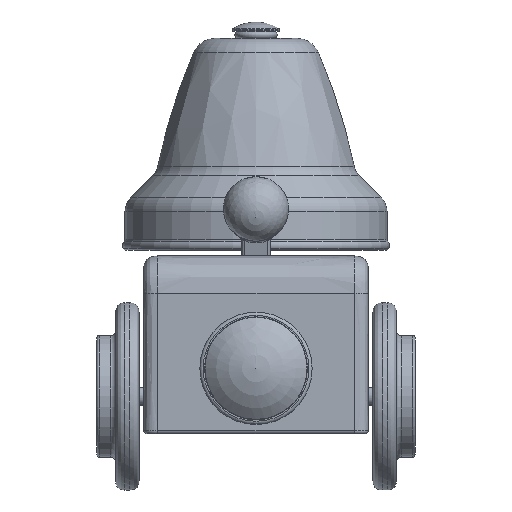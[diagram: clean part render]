
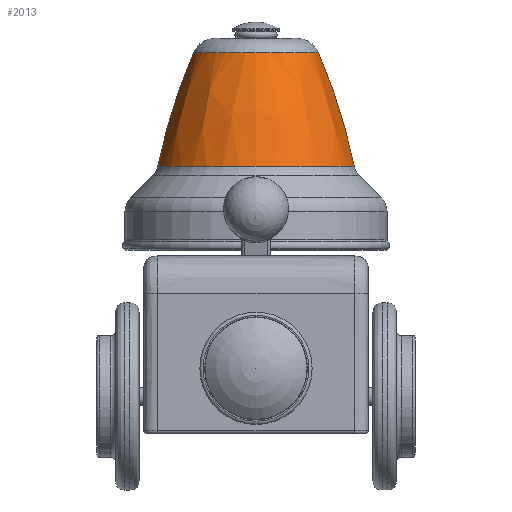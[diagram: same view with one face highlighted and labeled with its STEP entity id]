
A CAD part, left-side view. The second image highlights one B-rep face of the part: STEP entity #2013.
In plain terms, the highlighted free-form (B-spline) face has degree [3, 3] with [4, 7] control points.
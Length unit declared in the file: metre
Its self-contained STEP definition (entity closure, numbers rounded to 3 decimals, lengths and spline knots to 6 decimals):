
#2013 = ADVANCED_FACE( '', ( #3920, #3921 ), #3922, .T. );
#3920 = FACE_OUTER_BOUND( '', #7621, .T. );
#3921 = FACE_OUTER_BOUND( '', #7622, .T. );
#3922 = ( BOUNDED_SURFACE(  )B_SPLINE_SURFACE( 3, 3, ( ( #7625, #7626, #7627, #7628, #7629, #7630, #7631 ), ( #7632, #7633, #7634, #7635, #7636, #7637, #7638 ), ( #7639, #7640, #7641, #7642, #7643, #7644, #7645 ), ( #7646, #7647, #7648, #7649, #7650, #7651, #7652 ) ), .UNSPECIFIED., .F., .T., .F. )B_SPLINE_SURFACE_WITH_KNOTS( ( 4, 4 ), ( 4, 3, 4 ), ( 0., 6.283185 ), ( -0.403073, -0.305433, -0.207792 ), .UNSPECIFIED. )GEOMETRIC_REPRESENTATION_ITEM(  )RATIONAL_B_SPLINE_SURFACE( ( ( 1., 0.333, 0.333, 1., 0.333, 0.333, 1. ), ( 0.997, 0.332, 0.332, 0.997, 0.332, 0.332, 0.997 ), ( 0.997, 0.332, 0.332, 0.997, 0.332, 0.332, 0.997 ), ( 1., 0.333, 0.333, 1., 0.333, 0.333, 1. ) ) )REPRESENTATION_ITEM( '' )SURFACE(  ) );
#7621 = EDGE_LOOP( '', ( #12452 ) );
#7622 = EDGE_LOOP( '', ( #12453 ) );
#7625 = CARTESIAN_POINT( '', ( -0.010507, 0., 0.034563 ) );
#7626 = CARTESIAN_POINT( '', ( -0.010507, 0.021015, 0.034563 ) );
#7627 = CARTESIAN_POINT( '', ( 0.010507, 0.021015, 0.034563 ) );
#7628 = CARTESIAN_POINT( '', ( 0.010507, 0., 0.034563 ) );
#7629 = CARTESIAN_POINT( '', ( 0.010507, -0.021015, 0.034563 ) );
#7630 = CARTESIAN_POINT( '', ( -0.010507, -0.021015, 0.034563 ) );
#7631 = CARTESIAN_POINT( '', ( -0.010507, 0., 0.034563 ) );
#7632 = CARTESIAN_POINT( '', ( -0.009627, 0., 0.038737 ) );
#7633 = CARTESIAN_POINT( '', ( -0.009627, 0.019254, 0.038737 ) );
#7634 = CARTESIAN_POINT( '', ( 0.009627, 0.019254, 0.038737 ) );
#7635 = CARTESIAN_POINT( '', ( 0.009627, 0., 0.038737 ) );
#7636 = CARTESIAN_POINT( '', ( 0.009627, -0.019254, 0.038737 ) );
#7637 = CARTESIAN_POINT( '', ( -0.009627, -0.019254, 0.038737 ) );
#7638 = CARTESIAN_POINT( '', ( -0.009627, 0., 0.038737 ) );
#7639 = CARTESIAN_POINT( '', ( -0.008344, 0., 0.042806 ) );
#7640 = CARTESIAN_POINT( '', ( -0.008344, 0.016689, 0.042806 ) );
#7641 = CARTESIAN_POINT( '', ( 0.008344, 0.016689, 0.042806 ) );
#7642 = CARTESIAN_POINT( '', ( 0.008344, 0., 0.042806 ) );
#7643 = CARTESIAN_POINT( '', ( 0.008344, -0.016689, 0.042806 ) );
#7644 = CARTESIAN_POINT( '', ( -0.008344, -0.016689, 0.042806 ) );
#7645 = CARTESIAN_POINT( '', ( -0.008344, 0., 0.042806 ) );
#7646 = CARTESIAN_POINT( '', ( -0.006671, 0., 0.046731 ) );
#7647 = CARTESIAN_POINT( '', ( -0.006671, 0.013342, 0.046731 ) );
#7648 = CARTESIAN_POINT( '', ( 0.006671, 0.013342, 0.046731 ) );
#7649 = CARTESIAN_POINT( '', ( 0.006671, 0., 0.046731 ) );
#7650 = CARTESIAN_POINT( '', ( 0.006671, -0.013342, 0.046731 ) );
#7651 = CARTESIAN_POINT( '', ( -0.006671, -0.013342, 0.046731 ) );
#7652 = CARTESIAN_POINT( '', ( -0.006671, 0., 0.046731 ) );
#12452 = ORIENTED_EDGE( '', *, *, #14880, .T. );
#12453 = ORIENTED_EDGE( '', *, *, #14704, .F. );
#14704 = EDGE_CURVE( '', #17332, #17332, #17333, .T. );
#14880 = EDGE_CURVE( '', #17532, #17532, #17533, .T. );
#17332 = VERTEX_POINT( '', #22312 );
#17333 = CIRCLE( '', #22313, 0.010507 );
#17532 = VERTEX_POINT( '', #22580 );
#17533 = CIRCLE( '', #22581, 0.006671 );
#22312 = CARTESIAN_POINT( '', ( -0.010507, 0., 0.034563 ) );
#22313 = AXIS2_PLACEMENT_3D( '', #23809, #23810, #23811 );
#22580 = CARTESIAN_POINT( '', ( -0.006671, 0., 0.046731 ) );
#22581 = AXIS2_PLACEMENT_3D( '', #23915, #23916, #23917 );
#23809 = CARTESIAN_POINT( '', ( 0., 0., 0.034563 ) );
#23810 = DIRECTION( '', ( 0., 0., -1. ) );
#23811 = DIRECTION( '', ( -1., 0., 0. ) );
#23915 = CARTESIAN_POINT( '', ( 0., 0., 0.046731 ) );
#23916 = DIRECTION( '', ( 0., 0., -1. ) );
#23917 = DIRECTION( '', ( -1., 0., 0. ) );
